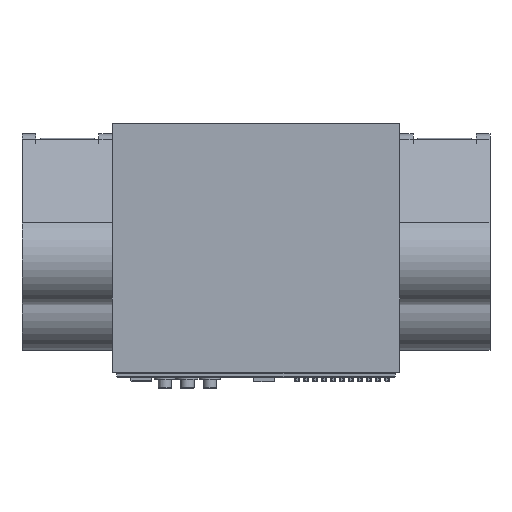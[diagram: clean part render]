
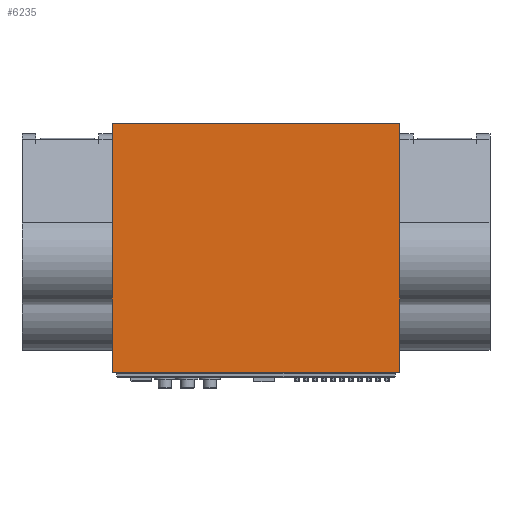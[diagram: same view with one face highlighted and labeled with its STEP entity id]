
A CAD part, top view. The second image highlights one B-rep face of the part: STEP entity #6235.
In plain terms, the highlighted planar face has unit normal (0, 0, 1).
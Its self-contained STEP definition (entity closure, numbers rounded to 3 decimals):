
#1161=FACE_OUTER_BOUND('',#1605,.T.);
#1605=EDGE_LOOP('',(#5662,#5663,#5664,#5665));
#1762=LINE('',#9822,#2243);
#2085=LINE('',#11048,#2566);
#2086=LINE('',#11051,#2567);
#2087=LINE('',#11052,#2568);
#2243=VECTOR('',#7695,10.);
#2566=VECTOR('',#9240,10.);
#2567=VECTOR('',#9243,10.);
#2568=VECTOR('',#9244,10.);
#2773=VERTEX_POINT('',#9815);
#2776=VERTEX_POINT('',#9820);
#3068=VERTEX_POINT('',#11046);
#3069=VERTEX_POINT('',#11050);
#3334=EDGE_CURVE('',#2776,#2773,#1762,.T.);
#3934=EDGE_CURVE('',#2776,#3068,#2085,.T.);
#3935=EDGE_CURVE('',#3069,#3068,#2086,.T.);
#3936=EDGE_CURVE('',#2773,#3069,#2087,.T.);
#5662=ORIENTED_EDGE('',*,*,#3934,.T.);
#5663=ORIENTED_EDGE('',*,*,#3935,.F.);
#5664=ORIENTED_EDGE('',*,*,#3936,.F.);
#5665=ORIENTED_EDGE('',*,*,#3334,.F.);
#5822=PLANE('',#7140);
#6235=ADVANCED_FACE('',(#1161),#5822,.T.);
#7140=AXIS2_PLACEMENT_3D('',#11049,#9241,#9242);
#7695=DIRECTION('',(-1.,0.,0.));
#9240=DIRECTION('',(0.,1.,0.));
#9241=DIRECTION('center_axis',(0.,0.,1.));
#9242=DIRECTION('ref_axis',(1.,0.,0.));
#9243=DIRECTION('',(1.,0.,0.));
#9244=DIRECTION('',(0.,1.,0.));
#9815=CARTESIAN_POINT('',(-3.329,-2.5,3.247));
#9820=CARTESIAN_POINT('',(3.022,-2.5,3.247));
#9822=CARTESIAN_POINT('',(-3.329,-2.5,3.247));
#11046=CARTESIAN_POINT('',(3.022,3.,3.247));
#11048=CARTESIAN_POINT('',(3.022,0.,3.247));
#11049=CARTESIAN_POINT('Origin',(-3.329,0.,3.247));
#11050=CARTESIAN_POINT('',(-3.329,3.,3.247));
#11051=CARTESIAN_POINT('',(-3.329,3.,3.247));
#11052=CARTESIAN_POINT('',(-3.329,0.,3.247));
